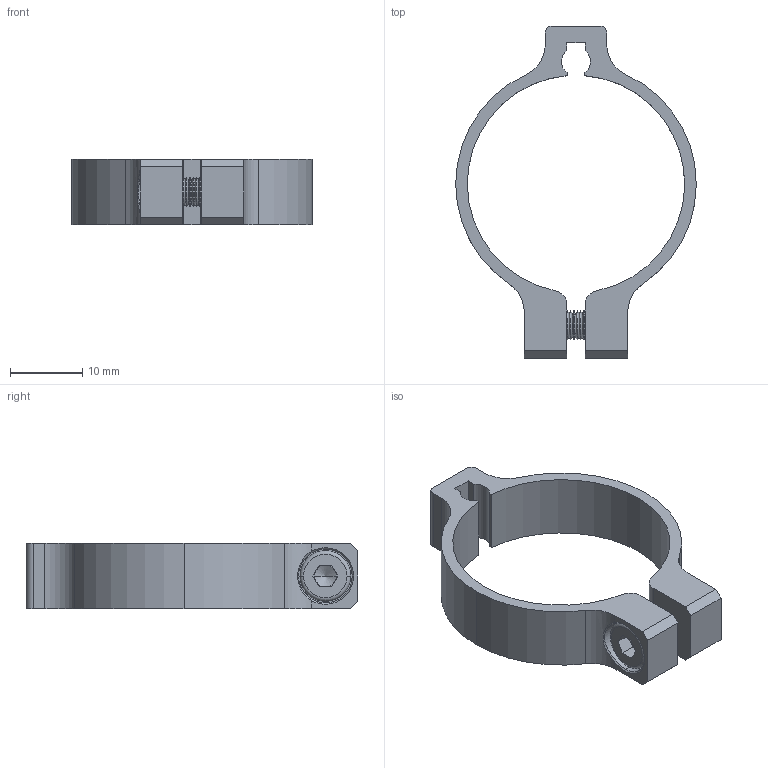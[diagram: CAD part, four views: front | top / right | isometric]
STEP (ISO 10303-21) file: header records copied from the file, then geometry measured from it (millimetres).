
FILE_DESCRIPTION (( 'STEP AP214' ), '1' );
FILE_NAME ('GS-30.STEP', '2019-11-13T03:45:16', ( '微软用户' ), ( '微软中国' ), 'SwSTEP 2.0', 'SolidWorks 2016', '' );
FILE_SCHEMA (( 'AUTOMOTIVE_DESIGN' ));
Length unit declared in the file: millimetre
Products named in the file (1): GS-30
Bounding box: 33.2 x 45.8 x 9 mm (x, y, z)
Volume: 2541 mm3; surface area: 3250.6 mm2
Topology: 2 solids, 2 shells, 177 faces, 400 edges, 227 vertices
Faces by surface type: cone 77, cylinder 61, plane 36, torus 2, bspline 1
Entity records: 6898 total; most frequent: DIRECTION 926, CARTESIAN_POINT 864, ORIENTED_EDGE 796, EDGE_CURVE 398, AXIS2_PLACEMENT_3D 355, VERTEX_POINT 227, LINE 216, VECTOR 216
